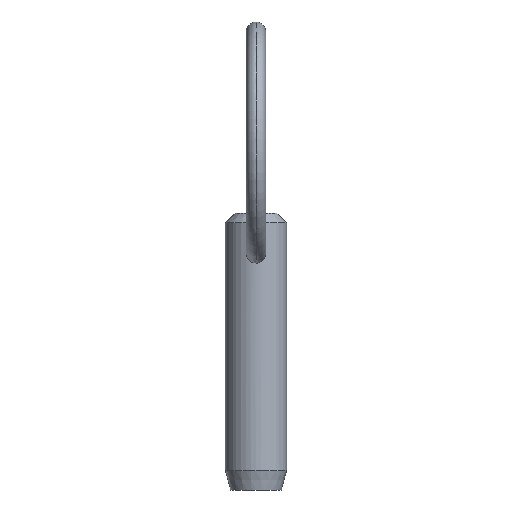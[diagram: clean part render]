
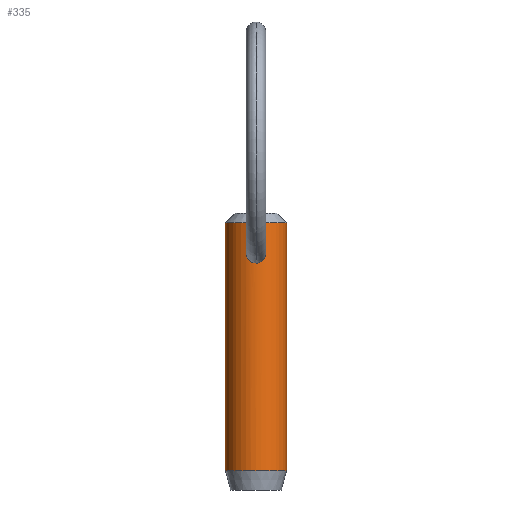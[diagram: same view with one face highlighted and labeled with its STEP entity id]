
A CAD part, front view. The second image highlights one B-rep face of the part: STEP entity #335.
In plain terms, the highlighted cylindrical face has radius 3.175 mm (diameter 6.35 mm), a partial arc.
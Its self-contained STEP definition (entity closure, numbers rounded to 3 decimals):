
#2 = CARTESIAN_POINT ( 'NONE',  ( 0.992, -3.016, 16.894 ) ) ;
#24 = CARTESIAN_POINT ( 'NONE',  ( -0.629, -3.114, 15.805 ) ) ;
#25 = CARTESIAN_POINT ( 'NONE',  ( -0.888, -3.049, 16.109 ) ) ;
#38 = EDGE_LOOP ( 'NONE', ( #441, #97 ) ) ;
#39 = CARTESIAN_POINT ( 'NONE',  ( 0.888, -3.049, 16.109 ) ) ;
#44 = EDGE_CURVE ( 'NONE', #190, #336, #240, .T. ) ;
#64 = CARTESIAN_POINT ( 'NONE',  ( -0.991, -3.016, 16.896 ) ) ;
#71 = CARTESIAN_POINT ( 'NONE',  ( 0., -3.175, 17.682 ) ) ;
#73 = VERTEX_POINT ( 'NONE', #165 ) ;
#74 = LINE ( 'NONE', #186, #462 ) ;
#75 = CARTESIAN_POINT ( 'NONE',  ( 0.617, -3.116, 17.451 ) ) ;
#77 = CARTESIAN_POINT ( 'NONE',  ( 0.268, -3.166, 15.629 ) ) ;
#90 = DIRECTION ( 'NONE',  ( 0., 0., -1. ) ) ;
#97 = ORIENTED_EDGE ( 'NONE', *, *, #108, .T. ) ;
#108 = EDGE_CURVE ( 'NONE', #164, #450, #329, .T. ) ;
#112 = AXIS2_PLACEMENT_3D ( 'NONE', #350, #345, #135 ) ;
#113 = EDGE_LOOP ( 'NONE', ( #178, #380, #328, #475 ) ) ;
#118 = DIRECTION ( 'NONE',  ( 0., 0., -1. ) ) ;
#119 = B_SPLINE_CURVE_WITH_KNOTS ( 'NONE', 3,
 ( #71, #223, #301, #452, #75, #334, #2, #149, #266, #39, #296, #303, #481, #77, #120, #446 ),
 .UNSPECIFIED., .F., .F.,
 ( 4, 2, 2, 2, 2, 2, 2, 4 ),
 ( 0.003, 0.003, 0.004, 0.004, 0.005, 0.005, 0.006, 0.006 ),
 .UNSPECIFIED. ) ;
#120 = CARTESIAN_POINT ( 'NONE',  ( 0.134, -3.175, 15.603 ) ) ;
#133 = DIRECTION ( 'NONE',  ( -1., 0., 0. ) ) ;
#135 = DIRECTION ( 'NONE',  ( -1., 0., 0. ) ) ;
#143 = CARTESIAN_POINT ( 'NONE',  ( -0.882, -3.055, 17.16 ) ) ;
#149 = CARTESIAN_POINT ( 'NONE',  ( 1.004, -3.012, 16.493 ) ) ;
#164 = VERTEX_POINT ( 'NONE', #472 ) ;
#165 = CARTESIAN_POINT ( 'NONE',  ( 3.175, 0., 19.78 ) ) ;
#175 = CARTESIAN_POINT ( 'NONE',  ( -0.134, -3.175, 15.603 ) ) ;
#178 = ORIENTED_EDGE ( 'NONE', *, *, #216, .F. ) ;
#186 = CARTESIAN_POINT ( 'NONE',  ( 3.175, 0., 15.2 ) ) ;
#190 = VERTEX_POINT ( 'NONE', #318 ) ;
#201 = CARTESIAN_POINT ( 'NONE',  ( -3.175, 0., -5.92 ) ) ;
#204 = DIRECTION ( 'NONE',  ( 1., 0., 0. ) ) ;
#214 = CARTESIAN_POINT ( 'NONE',  ( -0.815, -3.07, 15.995 ) ) ;
#216 = EDGE_CURVE ( 'NONE', #73, #313, #74, .T. ) ;
#221 = DIRECTION ( 'NONE',  ( 0., 0., -1. ) ) ;
#223 = CARTESIAN_POINT ( 'NONE',  ( 0.134, -3.175, 17.682 ) ) ;
#240 = LINE ( 'NONE', #242, #427 ) ;
#242 = CARTESIAN_POINT ( 'NONE',  ( -3.175, 0., 15.2 ) ) ;
#244 = CIRCLE ( 'NONE', #112, 3.175 ) ;
#248 = CARTESIAN_POINT ( 'NONE',  ( -0.067, -3.175, 17.682 ) ) ;
#249 = CARTESIAN_POINT ( 'NONE',  ( -0.133, -3.173, 17.674 ) ) ;
#256 = AXIS2_PLACEMENT_3D ( 'NONE', #267, #386, #204 ) ;
#266 = CARTESIAN_POINT ( 'NONE',  ( 0.982, -3.02, 16.358 ) ) ;
#267 = CARTESIAN_POINT ( 'NONE',  ( 0., 0., 19.78 ) ) ;
#275 = FACE_OUTER_BOUND ( 'NONE', #113, .T. ) ;
#291 = CARTESIAN_POINT ( 'NONE',  ( -0.615, -3.116, 17.453 ) ) ;
#293 = CARTESIAN_POINT ( 'NONE',  ( -0.269, -3.166, 15.629 ) ) ;
#296 = CARTESIAN_POINT ( 'NONE',  ( 0.815, -3.07, 15.995 ) ) ;
#301 = CARTESIAN_POINT ( 'NONE',  ( 0.269, -3.166, 17.65 ) ) ;
#303 = CARTESIAN_POINT ( 'NONE',  ( 0.628, -3.114, 15.804 ) ) ;
#313 = VERTEX_POINT ( 'NONE', #448 ) ;
#316 = CARTESIAN_POINT ( 'NONE',  ( 0., -3.175, 17.682 ) ) ;
#318 = CARTESIAN_POINT ( 'NONE',  ( -3.175, 0., 19.78 ) ) ;
#320 = CARTESIAN_POINT ( 'NONE',  ( -0.264, -3.165, 17.644 ) ) ;
#325 = EDGE_CURVE ( 'NONE', #450, #164, #119, .T. ) ;
#328 = ORIENTED_EDGE ( 'NONE', *, *, #44, .T. ) ;
#329 = B_SPLINE_CURVE_WITH_KNOTS ( 'NONE', 3,
 ( #399, #175, #293, #361, #24, #214, #25, #436, #438, #64, #143, #291, #395, #355, #320, #249, #248, #316 ),
 .UNSPECIFIED., .F., .F.,
 ( 4, 2, 2, 2, 2, 2, 2, 2, 4 ),
 ( 0.006, 0.006, 0.007, 0.007, 0.008, 0.008, 0.009, 0.009, 0.009 ),
 .UNSPECIFIED. ) ;
#334 = CARTESIAN_POINT ( 'NONE',  ( 0.884, -3.055, 17.157 ) ) ;
#335 = ADVANCED_FACE ( 'NONE', ( #275, #449 ), #359, .T. ) ;
#336 = VERTEX_POINT ( 'NONE', #201 ) ;
#345 = DIRECTION ( 'NONE',  ( 0., 0., 1. ) ) ;
#350 = CARTESIAN_POINT ( 'NONE',  ( 0., 0., -5.92 ) ) ;
#355 = CARTESIAN_POINT ( 'NONE',  ( -0.328, -3.159, 17.621 ) ) ;
#359 = CYLINDRICAL_SURFACE ( 'NONE', #365, 3.175 ) ;
#361 = CARTESIAN_POINT ( 'NONE',  ( -0.516, -3.135, 15.731 ) ) ;
#365 = AXIS2_PLACEMENT_3D ( 'NONE', #378, #221, #133 ) ;
#378 = CARTESIAN_POINT ( 'NONE',  ( 0., 0., 15.2 ) ) ;
#380 = ORIENTED_EDGE ( 'NONE', *, *, #381, .T. ) ;
#381 = EDGE_CURVE ( 'NONE', #73, #190, #394, .T. ) ;
#386 = DIRECTION ( 'NONE',  ( 0., 0., -1. ) ) ;
#388 = EDGE_CURVE ( 'NONE', #336, #313, #244, .T. ) ;
#394 = CIRCLE ( 'NONE', #256, 3.175 ) ;
#395 = CARTESIAN_POINT ( 'NONE',  ( -0.508, -3.136, 17.535 ) ) ;
#399 = CARTESIAN_POINT ( 'NONE',  ( 0., -3.175, 15.603 ) ) ;
#421 = CARTESIAN_POINT ( 'NONE',  ( 0., -3.175, 17.682 ) ) ;
#427 = VECTOR ( 'NONE', #90, 1000. ) ;
#436 = CARTESIAN_POINT ( 'NONE',  ( -0.983, -3.02, 16.359 ) ) ;
#438 = CARTESIAN_POINT ( 'NONE',  ( -1.004, -3.012, 16.495 ) ) ;
#441 = ORIENTED_EDGE ( 'NONE', *, *, #325, .T. ) ;
#446 = CARTESIAN_POINT ( 'NONE',  ( 0., -3.175, 15.603 ) ) ;
#448 = CARTESIAN_POINT ( 'NONE',  ( 3.175, 0., -5.92 ) ) ;
#449 = FACE_BOUND ( 'NONE', #38, .T. ) ;
#450 = VERTEX_POINT ( 'NONE', #421 ) ;
#452 = CARTESIAN_POINT ( 'NONE',  ( 0.51, -3.136, 17.534 ) ) ;
#462 = VECTOR ( 'NONE', #118, 1000. ) ;
#472 = CARTESIAN_POINT ( 'NONE',  ( 0., -3.175, 15.603 ) ) ;
#475 = ORIENTED_EDGE ( 'NONE', *, *, #388, .T. ) ;
#481 = CARTESIAN_POINT ( 'NONE',  ( 0.515, -3.135, 15.73 ) ) ;
